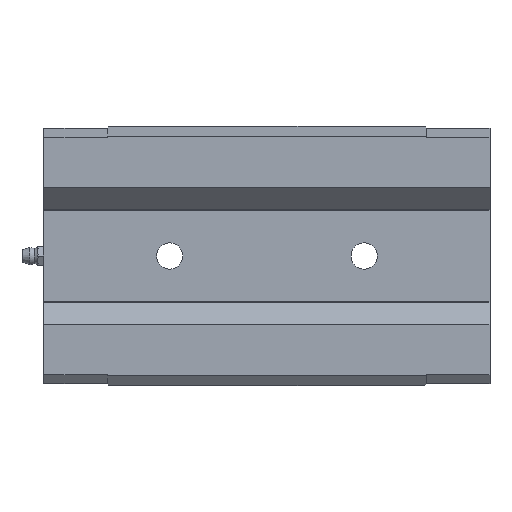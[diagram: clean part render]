
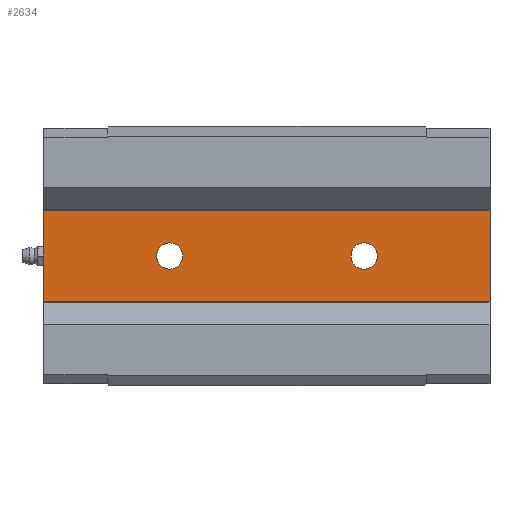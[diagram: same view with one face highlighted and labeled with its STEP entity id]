
A CAD part, front view. The second image highlights one B-rep face of the part: STEP entity #2634.
In plain terms, the highlighted planar face has unit normal (0, -1, 0).
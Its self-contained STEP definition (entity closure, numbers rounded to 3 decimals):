
#187=CIRCLE('',#2885,5.053);
#188=CIRCLE('',#2886,5.053);
#737=ORIENTED_EDGE('',*,*,#1208,.F.);
#738=ORIENTED_EDGE('',*,*,#1209,.F.);
#739=ORIENTED_EDGE('',*,*,#1034,.F.);
#740=ORIENTED_EDGE('',*,*,#1207,.F.);
#741=ORIENTED_EDGE('',*,*,#977,.T.);
#742=ORIENTED_EDGE('',*,*,#1210,.T.);
#977=EDGE_CURVE('',#1329,#1328,#1575,.T.);
#1034=EDGE_CURVE('',#1382,#1383,#1611,.T.);
#1207=EDGE_CURVE('',#1329,#1382,#1757,.T.);
#1208=EDGE_CURVE('',#1477,#1477,#187,.T.);
#1209=EDGE_CURVE('',#1478,#1478,#188,.T.);
#1210=EDGE_CURVE('',#1328,#1383,#1758,.T.);
#1328=VERTEX_POINT('',#3867);
#1329=VERTEX_POINT('',#3869);
#1382=VERTEX_POINT('',#3979);
#1383=VERTEX_POINT('',#3981);
#1477=VERTEX_POINT('',#4330);
#1478=VERTEX_POINT('',#4332);
#1575=LINE('',#3868,#1793);
#1611=LINE('',#3980,#1829);
#1757=LINE('',#4327,#1975);
#1758=LINE('',#4333,#1976);
#1793=VECTOR('',#3072,1000.);
#1829=VECTOR('',#3152,1000.);
#1975=VECTOR('',#3512,1000.);
#1976=VECTOR('',#3519,1000.);
#2089=EDGE_LOOP('',(#737));
#2090=EDGE_LOOP('',(#738));
#2091=EDGE_LOOP('',(#739,#740,#741,#742));
#2321=FACE_BOUND('',#2089,.T.);
#2322=FACE_BOUND('',#2090,.T.);
#2323=FACE_BOUND('',#2091,.T.);
#2521=PLANE('',#2884);
#2634=ADVANCED_FACE('',(#2321,#2322,#2323),#2521,.T.);
#2884=AXIS2_PLACEMENT_3D('',#4328,#3513,#3514);
#2885=AXIS2_PLACEMENT_3D('',#4329,#3515,#3516);
#2886=AXIS2_PLACEMENT_3D('',#4331,#3517,#3518);
#3072=DIRECTION('',(0.,0.,1.));
#3152=DIRECTION('',(0.,0.,1.));
#3512=DIRECTION('',(-1.,0.,0.));
#3513=DIRECTION('',(0.,-1.,0.));
#3514=DIRECTION('',(0.,0.,-1.));
#3515=DIRECTION('',(0.,-1.,0.));
#3516=DIRECTION('',(0.,0.,-1.));
#3517=DIRECTION('',(0.,-1.,0.));
#3518=DIRECTION('',(0.,0.,-1.));
#3519=DIRECTION('',(-1.,0.,0.));
#3867=CARTESIAN_POINT('',(86.,35.,25.47));
#3868=CARTESIAN_POINT('',(86.,35.,-25.47));
#3869=CARTESIAN_POINT('',(86.,35.,-25.47));
#3979=CARTESIAN_POINT('',(-86.,35.,-25.47));
#3980=CARTESIAN_POINT('',(-86.,35.,-25.47));
#3981=CARTESIAN_POINT('',(-86.,35.,25.47));
#4327=CARTESIAN_POINT('',(86.,35.,-25.47));
#4328=CARTESIAN_POINT('',(86.,35.,-25.47));
#4329=CARTESIAN_POINT('',(-37.5,35.,0.));
#4330=CARTESIAN_POINT('',(-37.5,35.,-5.053));
#4331=CARTESIAN_POINT('',(37.5,35.,0.));
#4332=CARTESIAN_POINT('',(37.5,35.,-5.053));
#4333=CARTESIAN_POINT('',(86.,35.,25.47));
